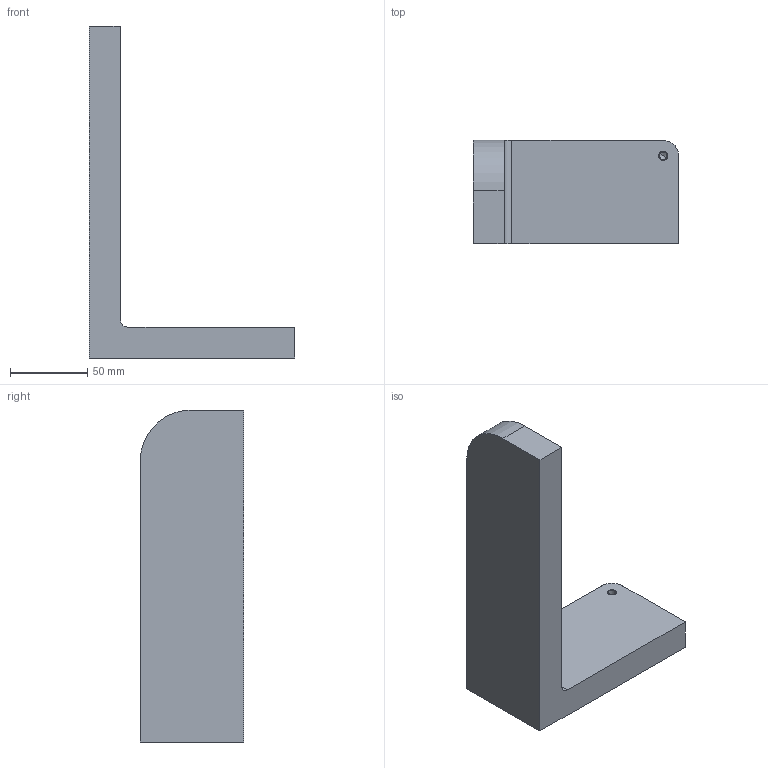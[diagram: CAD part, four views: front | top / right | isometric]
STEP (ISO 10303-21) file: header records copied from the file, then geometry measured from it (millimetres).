
FILE_DESCRIPTION(('CATIA V5 STEP Exchange'),'2;1');
FILE_NAME('C:\_Andres\UNIVERSIDAD\IQS\ASIGNATURAS\DAO\EXF\EXF-16172c\2inicio\Sarrió_Mercade_Ej01_v33.stp','2017-03-05T15:11:12+00:00',('none'),('none'),'CATIA Version 5-6 Release 2014 SP1 HF18','CATIA V5 STEP AP203','none');
FILE_SCHEMA(('CONFIG_CONTROL_DESIGN'));
Length unit declared in the file: millimetre
Products named in the file (1): Sarrió_Mercade_Ej01_v33
Bounding box: 133 x 67 x 215 mm (x, y, z)
Volume: 434463.4 mm3; surface area: 59215.8 mm2
Topology: 1 solids, 2 shells, 17 faces, 43 edges, 27 vertices
Faces by surface type: plane 8, cylinder 7, cone 2
Entity records: 513 total; most frequent: CARTESIAN_POINT 83, ORIENTED_EDGE 78, DIRECTION 69, EDGE_CURVE 41, AXIS2_PLACEMENT_3D 29, VECTOR 27, LINE 27, VERTEX_POINT 27
